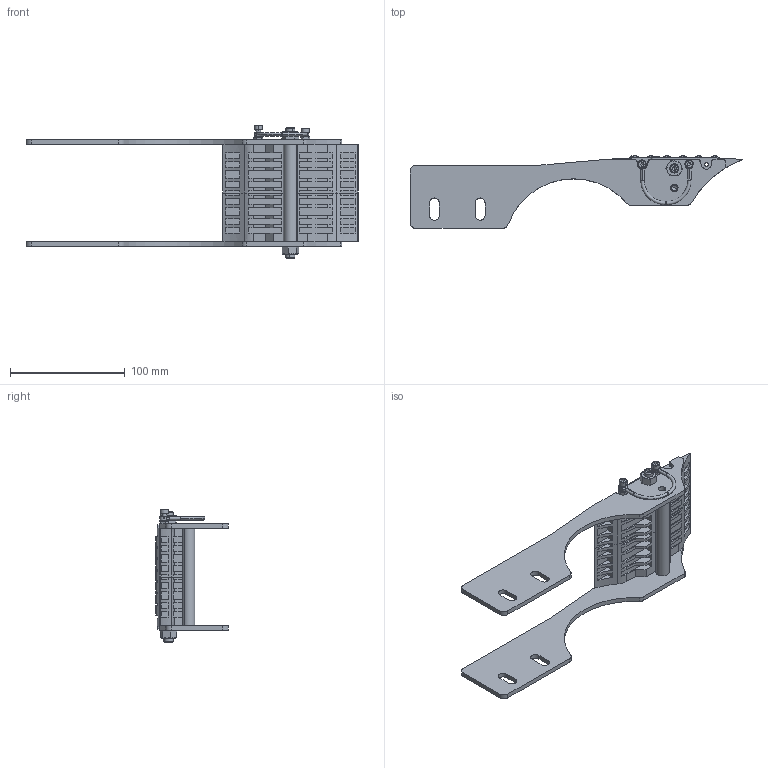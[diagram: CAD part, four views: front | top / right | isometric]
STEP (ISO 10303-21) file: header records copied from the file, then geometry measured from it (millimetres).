
FILE_DESCRIPTION (( 'STEP AP214' ), '1' );
FILE_NAME ('FMTB A85.step', '2017-04-07T11:08:57', ( '' ), ( '' ), 'SwSTEP 2.0', 'SolidWorks 2016', '' );
FILE_SCHEMA (( 'AUTOMOTIVE_DESIGN' ));
Length unit declared in the file: millimetre
Products named in the file (1): FMTB A85
Bounding box: 289.89 x 63.47 x 116.77 mm (x, y, z)
Surface area: 124530.2 mm2 (no closed solid volume)
Topology: 0 solids, 66 shells, 2030 faces, 5212 edges, 3398 vertices
Faces by surface type: plane 828, cylinder 554, torus 512, cone 108, bspline 28
Entity records: 92552 total; most frequent: CARTESIAN_POINT 18413, DIRECTION 11482, ORIENTED_EDGE 10372, EDGE_CURVE 5188, AXIS2_PLACEMENT_3D 4715, VERTEX_POINT 3398, CIRCLE 2712, EDGE_LOOP 2298
